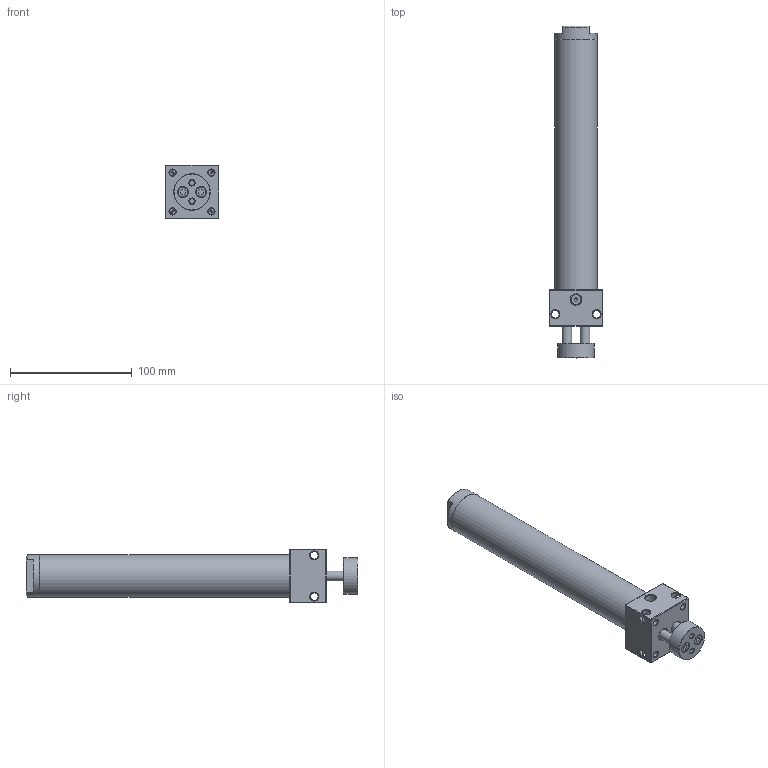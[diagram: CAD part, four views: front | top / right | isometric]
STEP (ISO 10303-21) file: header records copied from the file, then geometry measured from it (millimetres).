
FILE_DESCRIPTION((''),'2;1');
FILE_NAME('I:\3D電子目錄\氣缸\DBT\DBT\DBT30\DBT30x150.stp','2007-10-08T08:58:25',('Administrator'),(''),'Autodesk Inventor 2008','Autodesk Inventor 2008','');
FILE_SCHEMA(('AUTOMOTIVE_DESIGN { 1 0 10303 214 1 1 1 1 }'));
Length unit declared in the file: millimetre
Products named in the file (1): DBT30x150
Bounding box: 44 x 273 x 44 mm (x, y, z)
Volume: 133130.5 mm3; surface area: 69097.3 mm2
Topology: 5 solids, 5 shells, 167 faces, 388 edges, 234 vertices
Faces by surface type: plane 56, bspline 53, cone 37, cylinder 21
Full cylindrical faces by diameter (mm): 4.3 x1, 5 x1, 8 x3, 8.5 x1, 10 x1, 11 x1, 18 x1, 28.8 x2, 30 x2, 30.8 x2, 32 x2, 32.2 x2, 35 x2
Entity records: 5064 total; most frequent: CARTESIAN_POINT 1888, DIRECTION 604, ORIENTED_EDGE 538, EDGE_LOOP 298, EDGE_CURVE 269, AXIS2_PLACEMENT_3D 256, VERTEX_POINT 207, FACE_OUTER_BOUND 167
